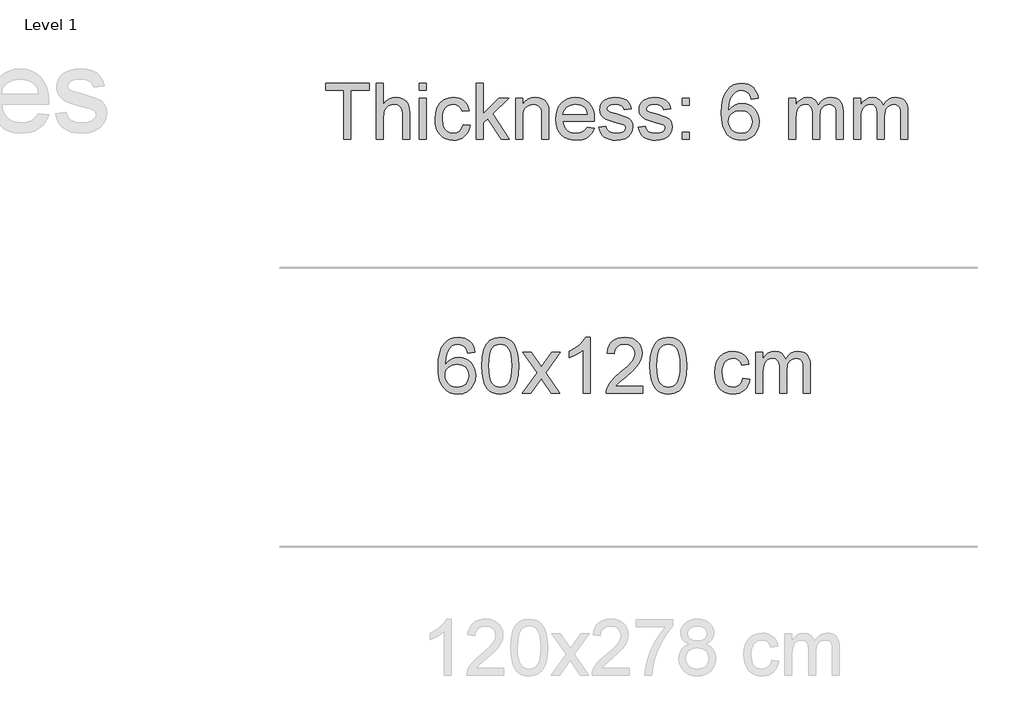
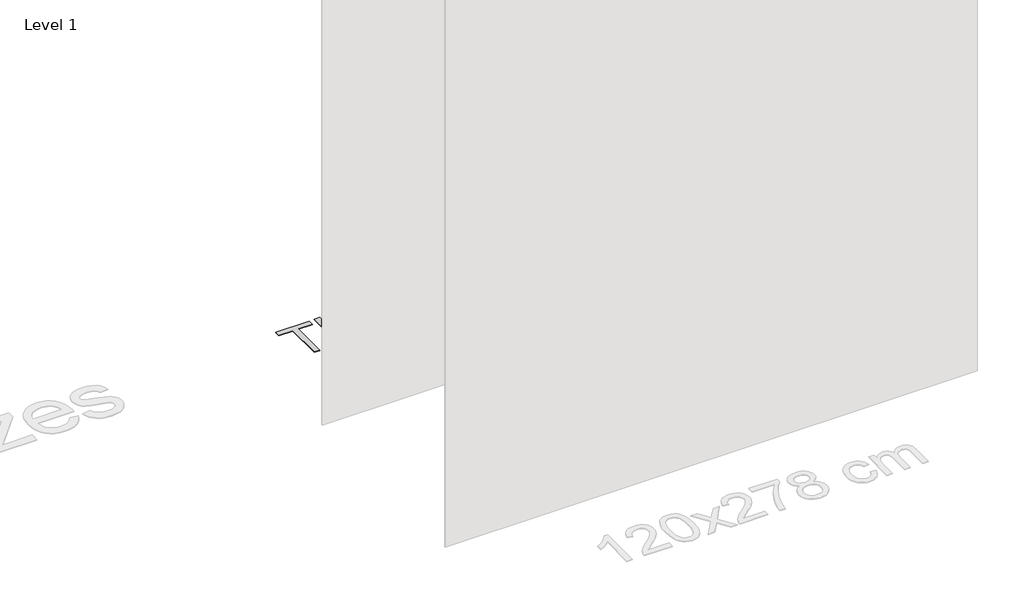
# One storey, part 2 of 7: 2 proxies.
"""IFC4 building model written with IfcOpenShell, lengths in millimetres."""

from ifc_helpers import new_model, si_unit, origin, origin_with_axes, place, context, project, spatial, polyline, outline, extrude, element, save

model = new_model("IFC4")

# Units and contexts
model_context = context("Model", 3, world=origin())
ifc_project = project(units=[si_unit("LENGTHUNIT", "METRE", prefix="MILLI")], contexts=[model_context])

# Site, building, storey
site = spatial("IfcSite", under=ifc_project)
building = spatial("IfcBuilding", under=site)
storey = spatial("IfcBuildingStorey", under=building, Name="Level 1", Elevation=0.0)

# Proxies
placement = place(None, origin())
element("IfcBuildingElementProxy", 1, Name="400mm Arial", ObjectType="400mm Arial", at=placement, inside=storey, context=model_context, shape_type="SweptSolid", body=[
    extrude(outline(polyline([(-22046.8810506, 10100.1981534), (-22097.1092056, 10093.919634), (-22105.2026095, 10118.8129823), (-22116.1409675, 10135.8091305), (-22138.9251257, 10151.4809035), (-22166.4672245, 10156.7048278), (-22189.8154684, 10153.66367), (-22211.7902863, 10144.5401965), (-22230.6626326, 10125.3244936), (-22246.0768882, 10098.8737782), (-22256.4879487, 10061.4601793), (-22260.3507096, 10009.355826), (-22240.203039, 10032.8634855), (-22216.0577174, 10049.430438), (-22189.2636454, 10059.2528873), (-22161.1697237, 10062.5270371), (-22137.0366648, 10060.2890883), (-22114.7675414, 10053.5752418), (-22094.3623534, 10042.3854978), (-22075.8211008, 10026.7198562), (-22060.4129766, 10007.5102847), (-22049.4071736, 9985.688751), (-22042.8036918, 9961.2552552), (-22040.6025312, 9934.2097971), (-22044.747335, 9898.2432008), (-22057.1817464, 9864.9008293), (-22076.8756959, 9836.6229666), (-22102.7991138, 9815.8498966), (-22133.7747778, 9803.0843913), (-22168.6254655, 9798.8292229), (-22198.5679942, 9801.6496516), (-22225.6103865, 9810.1109374), (-22249.7526425, 9824.2130806), (-22270.994762, 9843.956081), (-22288.3128069, 9870.1738045), (-22300.682839, 9903.700117), (-22308.1048583, 9944.5350185), (-22310.5788647, 9992.6785089), (-22307.8320125, 10046.652929), (-22299.5914558, 10092.7178861), (-22285.8571946, 10130.8733804), (-22266.629229, 10161.1194118), (-22245.788714, 10181.1628491), (-22221.6249983, 10195.4795901), (-22194.1380819, 10204.0696347), (-22163.3279648, 10206.9329829), (-22140.1943186, 10205.161018), (-22119.2557017, 10199.8451231), (-22100.5121141, 10190.9852984), (-22083.9635557, 10178.5815438), (-22070.0576162, 10163.0507922), (-22059.2418856, 10144.8099767), (-22051.5163637, 10123.859097), (-22046.8810506, 10100.1981534)]), holes=[polyline([(-22260.3507096, 9934.9946121), (-22257.4444419, 9912.7377514), (-22248.7256386, 9891.4864348), (-22235.1875812, 9873.2149623), (-22217.823551, 9859.8976341), (-22196.86654, 9851.767442), (-22172.5495401, 9849.057378), (-22139.4033723, 9854.6737098), (-22125.4882359, 9861.6941245), (-22113.3450643, 9871.5227052), (-22103.4950239, 9883.7609129), (-22096.4592808, 9898.0102088), (-22090.8306862, 9932.5420654), (-22096.3857044, 9965.6882332), (-22103.329477, 9979.3090641), (-22113.0507588, 9990.9617263), (-22125.2307185, 10000.2967319), (-22139.5505251, 10006.9645931), (-22174.6096793, 10012.298882), (-22207.7067961, 10006.9645931), (-22235.3837849, 9990.9617263), (-22246.3068145, 9979.4623482), (-22254.1089784, 9966.3013699), (-22258.7902768, 9951.4787911), (-22260.3507096, 9934.9946121)])]), origin_with_axes(), (0.0, 0.0, 1.0), 5.0),
    extrude(outline(polyline([(-21996.6528955, 10002.783001), (-21992.9618128, 10067.1010365), (-21981.8885647, 10118.3960494), (-21963.5435159, 10157.4528546), (-21951.6854529, 10172.6862348), (-21938.0370309, 10185.0562669), (-21922.5522646, 10194.6273302), (-21905.1851687, 10201.4638039), (-21864.8039884, 10206.9329829), (-21833.8528499, 10203.6956213), (-21806.1390729, 10193.9835367), (-21782.9625072, 10178.1768736), (-21765.6230025, 10156.6557769), (-21752.5264035, 10129.6041875), (-21742.0785548, 10097.2060465), (-21735.2359497, 10056.0645767), (-21732.9550813, 10002.783001), (-21736.6093758, 9938.8328476), (-21747.5722593, 9887.660462), (-21765.8069435, 9848.5668687), (-21777.6374153, 9833.2875031), (-21791.2766403, 9820.8530917), (-21806.7798007, 9811.2176491), (-21824.2020789, 9804.3351901), (-21864.8039884, 9798.8292229), (-21892.4687144, 9801.2204559), (-21916.9941808, 9808.3941548), (-21938.3803874, 9820.3503196), (-21956.6273344, 9837.0889504), (-21974.1385174, 9867.3472445), (-21986.6465052, 9905.0490177), (-21994.1512979, 9950.1942698), (-21996.6528955, 10002.783001)]), holes=[polyline([(-21946.4247404, 10002.8811029), (-21944.9532124, 9959.2165758), (-21940.5386285, 9923.8723131), (-21933.1809886, 9896.8483149), (-21922.8802927, 9878.1445811), (-21910.4213558, 9865.4189297), (-21896.5889928, 9856.3291788), (-21881.3832037, 9850.8753282), (-21864.8039884, 9849.057378), (-21848.2247732, 9850.8814596), (-21833.018984, 9856.3537042), (-21819.186621, 9865.474112), (-21806.7276841, 9878.2426829), (-21796.4269882, 9896.9770736), (-21789.0693483, 9923.9949404), (-21784.6547644, 9959.2962835), (-21783.1832364, 10002.8811029), (-21784.6057135, 10045.3898675), (-21788.8731446, 10080.1117964), (-21795.9855298, 10107.0468898), (-21805.9428692, 10126.1951477), (-21818.1933396, 10139.5431328), (-21832.1851182, 10149.0774078), (-21847.9182048, 10154.7979728), (-21865.3925996, 10156.7048278), (-21881.8859757, 10155.0248334), (-21896.8342475, 10149.9848501), (-21910.2374148, 10141.5848778), (-21922.0954778, 10129.8249167), (-21932.7395302, 10108.9782703), (-21940.3424247, 10080.8720859), (-21944.9041615, 10045.5063634), (-21946.4247404, 10002.8811029)])]), origin_with_axes(), (0.0, 0.0, 1.0), 5.0),
    extrude(outline(polyline([(-21707.8410038, 9805.1077423), (-21600.5175631, 9953.5358646), (-21701.5624844, 10100.1981534), (-21641.3279391, 10100.1981534), (-21592.571312, 10029.4667084), (-21569.7135773, 9996.2101761), (-21549.8970005, 10023.4824946), (-21494.3713447, 10100.1981534), (-21433.9405957, 10100.1981534), (-21540.086814, 9953.4377628), (-21437.8646703, 9805.1077423), (-21498.1973175, 9805.1077423), (-21559.8052889, 9894.3804398), (-21570.9889016, 9910.7634513), (-21647.4102547, 9805.1077423), (-21707.8410038, 9805.1077423)])), origin_with_axes(), (0.0, 0.0, 1.0), 5.0),
    extrude(outline(polyline([(-21218.1164918, 9805.1077423), (-21268.3446469, 9805.1077423), (-21268.3446469, 10118.2488966), (-21289.3139206, 10101.2895366), (-21315.9240516, 10084.3547021), (-21368.800957, 10058.9953699), (-21368.800957, 10106.4766728), (-21329.3517444, 10127.9364558), (-21295.1755071, 10153.4674663), (-21268.2342823, 10180.6171575), (-21250.4901074, 10206.9329829), (-21218.1164918, 10206.9329829), (-21218.1164918, 9805.1077423)])), origin_with_axes(), (0.0, 0.0, 1.0), 5.0),
    extrude(outline(polyline([(-20841.4053288, 9855.3358974), (-20841.4053288, 9805.1077423), (-21105.1031429, 9805.1077423), (-21103.9994969, 9822.7906035), (-21099.7075403, 9839.7377008), (-21087.3099171, 9866.8015529), (-21069.1488092, 9893.0560646), (-21042.8942975, 9920.5368497), (-21006.2164626, 9951.2795217), (-20952.0274447, 9999.4230122), (-20919.5434645, 10034.9604129), (-20903.3198685, 10063.8023613), (-20897.9120032, 10091.8594948), (-20903.0255629, 10117.0103605), (-20918.3662421, 10137.9183206), (-20941.947478, 10152.008201), (-20971.7827078, 10156.7048278), (-21003.1139911, 10152.1185656), (-21027.4555165, 10138.359779), (-21043.1640776, 10116.5075885), (-21048.5964684, 10087.6411146), (-21098.8246235, 10093.919634), (-21094.5050758, 10119.8491833), (-21086.6477295, 10142.5045828), (-21075.2525847, 10161.8858326), (-21060.3196414, 10177.9929326), (-21042.192256, 10190.6542046), (-21021.2137853, 10199.6979703), (-20997.384229, 10205.1242298), (-20970.7035873, 10206.9329829), (-20943.7838223, 10204.9218947), (-20919.8255074, 10198.8886299), (-20898.8286425, 10188.8331887), (-20880.7932277, 10174.7555711), (-20866.3078741, 10157.6981092), (-20855.961193, 10138.7031355), (-20849.7531844, 10117.77065), (-20847.6838481, 10094.9006526), (-20849.9156656, 10070.8779584), (-20856.6111179, 10047.272197), (-20868.4937063, 10023.2617654), (-20886.2869322, 9998.0250606), (-20914.650634, 9967.8955252), (-20958.2446504, 9929.206602), (-21016.0266491, 9880.8914333), (-21038.68818, 9855.3358974), (-20841.4053288, 9855.3358974)])), origin_with_axes(), (0.0, 0.0, 1.0), 5.0),
    extrude(outline(polyline([(-20791.1771737, 10002.783001), (-20787.486091, 10067.1010365), (-20776.4128429, 10118.3960494), (-20758.0677941, 10157.4528546), (-20746.2097311, 10172.6862348), (-20732.5613091, 10185.0562669), (-20717.0765428, 10194.6273302), (-20699.7094469, 10201.4638039), (-20659.3282666, 10206.9329829), (-20628.3771281, 10203.6956213), (-20600.6633511, 10193.9835367), (-20577.4867854, 10178.1768736), (-20560.1472807, 10156.6557769), (-20547.0506817, 10129.6041875), (-20536.602833, 10097.2060465), (-20529.7602279, 10056.0645767), (-20527.4793595, 10002.783001), (-20531.133654, 9938.8328476), (-20542.0965375, 9887.660462), (-20560.3312217, 9848.5668687), (-20572.1616935, 9833.2875031), (-20585.8009185, 9820.8530917), (-20601.3040789, 9811.2176491), (-20618.7263571, 9804.3351901), (-20659.3282666, 9798.8292229), (-20686.9929926, 9801.2204559), (-20711.518459, 9808.3941548), (-20732.9046656, 9820.3503196), (-20751.1516126, 9837.0889504), (-20768.6627956, 9867.3472445), (-20781.1707834, 9905.0490177), (-20788.6755761, 9950.1942698), (-20791.1771737, 10002.783001)]), holes=[polyline([(-20740.9490186, 10002.8811029), (-20739.4774906, 9959.2165758), (-20735.0629067, 9923.8723131), (-20727.7052668, 9896.8483149), (-20717.4045709, 9878.1445811), (-20704.945634, 9865.4189297), (-20691.113271, 9856.3291788), (-20675.9074819, 9850.8753282), (-20659.3282666, 9849.057378), (-20642.7490514, 9850.8814596), (-20627.5432622, 9856.3537042), (-20613.7108992, 9865.474112), (-20601.2519623, 9878.2426829), (-20590.9512664, 9896.9770736), (-20583.5936265, 9923.9949404), (-20579.1790426, 9959.2962835), (-20577.7075146, 10002.8811029), (-20579.1299917, 10045.3898675), (-20583.3974228, 10080.1117964), (-20590.509808, 10107.0468898), (-20600.4671474, 10126.1951477), (-20612.7176178, 10139.5431328), (-20626.7093964, 10149.0774078), (-20642.442483, 10154.7979728), (-20659.9168778, 10156.7048278), (-20676.4102539, 10155.0248334), (-20691.3585257, 10149.9848501), (-20704.761693, 10141.5848778), (-20716.619756, 10129.8249167), (-20727.2638084, 10108.9782703), (-20734.866703, 10080.8720859), (-20739.4284397, 10045.5063634), (-20740.9490186, 10002.8811029)])]), origin_with_axes(), (0.0, 0.0, 1.0), 5.0),
    extrude(outline(polyline([(-20125.6541189, 9911.8425718), (-20075.4259639, 9905.5640525), (-20080.8890115, 9881.8632549), (-20089.4300051, 9860.8909155), (-20101.0489448, 9842.6470342), (-20115.7458305, 9827.1316111), (-20132.9013942, 9814.7493163), (-20151.8963679, 9805.90482), (-20172.7307516, 9800.5981222), (-20195.4045452, 9798.8292229), (-20223.575109, 9801.297098), (-20248.8332737, 9808.7007231), (-20271.1790392, 9821.0400984), (-20290.6124056, 9838.3152237), (-20306.3424266, 9860.2011368), (-20317.5781558, 9886.372875), (-20324.3195934, 9916.8304386), (-20326.5667392, 9951.5738273), (-20322.7285038, 9996.2714897), (-20311.2137973, 10035.0094638), (-20291.8386789, 10066.2916961), (-20264.4192075, 10088.6221333), (-20231.6163963, 10102.0130379), (-20196.0912583, 10106.4766728), (-20173.8068064, 10104.9438311), (-20153.6499388, 10100.3453062), (-20135.6206553, 10092.6810979), (-20119.7189561, 10081.9512064), (-20106.2146212, 10068.4008863), (-20095.3774307, 10052.2753921), (-20087.2073848, 10033.574724), (-20081.7044833, 10012.298882), (-20131.9326383, 10006.0203626), (-20141.0438491, 10027.9338668), (-20155.2318314, 10043.642428), (-20173.7117702, 10053.0969953), (-20195.6988508, 10056.2485177), (-20212.7655097, 10054.6972819), (-20228.1583055, 10050.0435747), (-20241.8772383, 10042.287396), (-20253.9223079, 10031.4287457), (-20263.7294288, 10017.216238), (-20270.7345151, 9999.3984867), (-20274.9375669, 9977.9754918), (-20276.3385842, 9952.9472534), (-20270.8571424, 9905.8706208), (-20264.0053403, 9887.9333078), (-20254.4128173, 9873.7299971), (-20242.6068709, 9862.9357263), (-20229.1147987, 9855.2255328), (-20213.9366007, 9850.5994167), (-20197.0722769, 9849.057378), (-20171.0630199, 9852.9078762), (-20149.7381269, 9864.4593709), (-20134.2257694, 9884.0061675), (-20125.6541189, 9911.8425718)])), origin_with_axes(), (0.0, 0.0, 1.0), 5.0),
    extrude(outline(polyline([(-20031.4763282, 9805.1077423), (-20031.4763282, 10100.1981534), (-19981.2481731, 10100.1981534), (-19981.2481731, 10051.63773), (-19966.1404858, 10073.9436416), (-19946.7163165, 10091.4180364), (-19923.6378527, 10102.7120137), (-19897.5672819, 10106.4766728), (-19869.6327758, 10102.6384373), (-19847.241025, 10091.1237308), (-19830.5146569, 10072.6928429), (-19819.576299, 10048.1060629), (-19801.2680383, 10073.6432047), (-19780.3846037, 10091.8840203), (-19756.9259952, 10102.8285096), (-19730.8922127, 10106.4766728), (-19710.7843959, 10104.9591595), (-19693.1352572, 10100.4066198), (-19677.9447965, 10092.8190537), (-19665.2130138, 10082.1964611), (-19655.1483755, 10068.4162147), (-19647.9593482, 10051.3556871), (-19643.6459318, 10031.0148785), (-19642.2081263, 10007.3937887), (-19642.2081263, 9805.1077423), (-19692.4362814, 9805.1077423), (-19692.4362814, 9985.8113783), (-19693.6012411, 10010.8641422), (-19697.09612, 10027.7499258), (-19703.6444195, 10039.3136832), (-19713.9696409, 10048.4003684), (-19727.2501809, 10054.2864804), (-19742.6644365, 10056.2485177), (-19769.8754414, 10051.2207971), (-19792.0587257, 10036.1376353), (-19800.6640987, 10024.5677465), (-19806.8107937, 10009.9689627), (-19811.7281497, 9971.6847097), (-19811.7281497, 9805.1077423), (-19861.9563048, 9805.1077423), (-19861.9563048, 9991.4031847), (-19864.8625726, 10019.8036747), (-19873.5813758, 10040.0617099), (-19888.922055, 10052.2018157), (-19911.6939505, 10056.2485177), (-19931.0445435, 10053.5507164), (-19948.8745575, 10045.4573125), (-19963.5898373, 10032.1645097), (-19973.5962276, 10013.8685118), (-19979.3351867, 9988.4846542), (-19981.2481731, 9953.9282721), (-19981.2481731, 9805.1077423), (-20031.4763282, 9805.1077423)])), origin_with_axes(), (0.0, 0.0, 1.0), 5.0),
])
element("IfcBuildingElementProxy", 2, Name="400mm Arial", ObjectType="400mm Arial", at=placement, inside=storey, context=model_context, shape_type="SweptSolid", body=[
    extrude(outline(polyline([(-22985.008477, 11625.1077423), (-22985.008477, 11976.7048278), (-23116.8573841, 11976.7048278), (-23116.8573841, 12026.9329829), (-22802.9314149, 12026.9329829), (-22802.9314149, 11976.7048278), (-22934.7803219, 11976.7048278), (-22934.7803219, 11625.1077423), (-22985.008477, 11625.1077423)])), origin_with_axes(), (0.0, 0.0, 1.0), 5.0),
    extrude(outline(polyline([(-22752.7032598, 11625.1077423), (-22752.7032598, 12026.9329829), (-22702.4751047, 12026.9329829), (-22702.4751047, 11879.1915736), (-22684.0258227, 11899.8788045), (-22663.307935, 11914.655398), (-22640.3214416, 11923.5213541), (-22615.0663427, 11926.4766728), (-22584.7283408, 11923.2515739), (-22558.6577701, 11913.5762775), (-22538.1299547, 11898.2110728), (-22524.420219, 11877.9162494), (-22516.6946971, 11850.0307942), (-22514.1195232, 11811.893694), (-22514.1195232, 11625.1077423), (-22564.3476783, 11625.1077423), (-22564.3476783, 11806.6942951), (-22568.3453293, 11838.135943), (-22580.3382823, 11859.6693024), (-22599.6643498, 11872.1037139), (-22625.6613441, 11876.2485177), (-22646.8881352, 11873.4526145), (-22666.8150766, 11865.064905), (-22683.3207155, 11851.8947296), (-22694.283599, 11834.7514286), (-22700.4272283, 11811.9672704), (-22702.4751047, 11781.8745232), (-22702.4751047, 11625.1077423), (-22752.7032598, 11625.1077423)])), origin_with_axes(), (0.0, 0.0, 1.0), 5.0),
    extrude(outline(polyline([(-22445.05581, 11625.1077423), (-22445.05581, 11920.1981534), (-22394.8276549, 11920.1981534), (-22394.8276549, 11625.1077423), (-22445.05581, 11625.1077423)])), origin_with_axes(), (0.0, 0.0, 1.0), 5.0),
    extrude(outline(polyline([(-22445.05581, 11976.7048278), (-22445.05581, 12026.9329829), (-22394.8276549, 12026.9329829), (-22394.8276549, 11976.7048278), (-22445.05581, 11976.7048278)])), origin_with_axes(), (0.0, 0.0, 1.0), 5.0),
    extrude(outline(polyline([(-22131.1298407, 11731.8425718), (-22080.9016857, 11725.5640525), (-22086.3647333, 11701.8632549), (-22094.9057269, 11680.8909155), (-22106.5246666, 11662.6470342), (-22121.2215523, 11647.1316111), (-22138.377116, 11634.7493163), (-22157.3720897, 11625.90482), (-22178.2064734, 11620.5981222), (-22200.880267, 11618.8292229), (-22229.0508308, 11621.297098), (-22254.3089955, 11628.7007231), (-22276.654761, 11641.0400984), (-22296.0881274, 11658.3152237), (-22311.8181484, 11680.2011368), (-22323.0538776, 11706.372875), (-22329.7953152, 11736.8304386), (-22332.042461, 11771.5738273), (-22328.2042256, 11816.2714897), (-22316.6895191, 11855.0094638), (-22297.3144007, 11886.2916961), (-22269.8949293, 11908.6221333), (-22237.0921181, 11922.0130379), (-22201.5669801, 11926.4766728), (-22179.2825282, 11924.9438311), (-22159.1256606, 11920.3453062), (-22141.0963771, 11912.6810979), (-22125.1946779, 11901.9512064), (-22111.690343, 11888.4008863), (-22100.8531525, 11872.2753921), (-22092.6831066, 11853.574724), (-22087.180205, 11832.298882), (-22137.4083601, 11826.0203626), (-22146.5195709, 11847.9338668), (-22160.7075531, 11863.642428), (-22179.187492, 11873.0969953), (-22201.1745726, 11876.2485177), (-22218.2412315, 11874.6972819), (-22233.6340273, 11870.0435747), (-22247.3529601, 11862.287396), (-22259.3980297, 11851.4287457), (-22269.2051506, 11837.216238), (-22276.2102369, 11819.3984867), (-22280.4132887, 11797.9754918), (-22281.814306, 11772.9472534), (-22276.3328642, 11725.8706208), (-22269.4810621, 11707.9333078), (-22259.888539, 11693.7299971), (-22248.0825927, 11682.9357263), (-22234.5905205, 11675.2255328), (-22219.4123225, 11670.5994167), (-22202.5479987, 11669.057378), (-22176.5387417, 11672.9078762), (-22155.2138487, 11684.4593709), (-22139.7014912, 11704.0061675), (-22131.1298407, 11731.8425718)])), origin_with_axes(), (0.0, 0.0, 1.0), 5.0),
    extrude(outline(polyline([(-22036.95205, 11625.1077423), (-22036.95205, 12026.9329829), (-21986.7238949, 12026.9329829), (-21986.7238949, 11811.0107772), (-21874.1029534, 11920.1981534), (-21804.6468328, 11920.1981534), (-21918.7393022, 11809.6373511), (-21798.3683134, 11625.1077423), (-21857.0332289, 11625.1077423), (-21954.7426868, 11774.713087), (-21986.7238949, 11743.6147957), (-21986.7238949, 11625.1077423), (-22036.95205, 11625.1077423)])), origin_with_axes(), (0.0, 0.0, 1.0), 5.0),
    extrude(outline(polyline([(-21754.4186777, 11625.1077423), (-21754.4186777, 11920.1981534), (-21704.1905226, 11920.1981534), (-21704.1905226, 11878.9953699), (-21686.7406533, 11899.7684399), (-21665.7836423, 11914.606347), (-21641.3194896, 11923.5090913), (-21613.3481953, 11926.4766728), (-21588.589737, 11924.0854398), (-21565.9159433, 11916.9117409), (-21547.0068088, 11905.8507556), (-21533.5423278, 11891.7976633), (-21524.4065916, 11874.7892524), (-21518.4836914, 11854.862311), (-21515.8349411, 11806.3018877), (-21515.8349411, 11625.1077423), (-21566.0630961, 11625.1077423), (-21566.0630961, 11799.532859), (-21567.5100987, 11825.5053278), (-21571.8511062, 11843.973004), (-21579.858671, 11857.2044931), (-21592.3053451, 11867.4684007), (-21608.259161, 11874.0534884), (-21626.7881508, 11876.2485177), (-21656.2064477, 11871.3188989), (-21681.283737, 11856.5300427), (-21691.3054557, 11844.4573819), (-21698.4638262, 11827.9578744), (-21702.7588485, 11807.0315203), (-21704.1905226, 11781.6783195), (-21704.1905226, 11625.1077423), (-21754.4186777, 11625.1077423)])), origin_with_axes(), (0.0, 0.0, 1.0), 5.0),
    extrude(outline(polyline([(-21240.1686994, 11713.0070137), (-21190.9215629, 11706.7284943), (-21198.4723409, 11687.003888), (-21208.6657378, 11669.6214637), (-21221.5017538, 11654.5812215), (-21236.9803887, 11641.8831613), (-21254.9422271, 11631.7970633), (-21275.2278535, 11624.5927075), (-21322.77047, 11618.8292229), (-21353.9362064, 11621.3154921), (-21381.7051656, 11628.7742995), (-21406.0773478, 11641.2056453), (-21427.0527529, 11658.6095293), (-21443.9201424, 11680.5015737), (-21455.9682777, 11706.3974005), (-21463.1971589, 11736.2970097), (-21465.606786, 11770.2004012), (-21463.1726335, 11805.253424), (-21455.8701759, 11836.1493802), (-21443.6994132, 11862.8882699), (-21426.6603454, 11885.470093), (-21405.7401226, 11903.4104717), (-21381.9258948, 11916.2250278), (-21355.217662, 11923.9137615), (-21325.6154241, 11926.4766728), (-21296.9666137, 11923.9198929), (-21271.0585242, 11916.2495533), (-21247.8911556, 11903.465654), (-21227.4645078, 11885.5681949), (-21210.7902564, 11863.0354227), (-21198.8800768, 11836.3455839), (-21191.733969, 11805.4986786), (-21189.3519331, 11770.4947068), (-21189.6462387, 11756.9566494), (-21415.3786309, 11756.9566494), (-21412.4692975, 11736.913212), (-21406.6843531, 11719.3591095), (-21398.0237978, 11704.2943418), (-21386.4876316, 11691.7189089), (-21372.7135165, 11681.8044891), (-21357.3391148, 11674.7227607), (-21321.7894513, 11669.057378), (-21295.056693, 11671.6816029), (-21272.5423149, 11679.5542776), (-21254.246317, 11693.1659114), (-21240.1686994, 11713.0070137)]), holes=[polyline([(-21415.3786309, 11807.1848045), (-21239.5800882, 11807.1848045), (-21246.3736423, 11833.721359), (-21259.6909706, 11852.70407), (-21273.3884435, 11863.0047659), (-21288.9743774, 11870.3624058), (-21306.4487721, 11874.7769897), (-21325.8116278, 11876.2485177), (-21359.6690341, 11871.5518909), (-21387.664854, 11857.4620105), (-21407.1258115, 11835.4994553), (-21415.3786309, 11807.1848045)])]), origin_with_axes(), (0.0, 0.0, 1.0), 5.0),
    extrude(outline(polyline([(-21157.9593362, 11713.0070137), (-21107.7311811, 11719.2855331), (-21099.8094555, 11697.8012246), (-21084.481039, 11682.0068242), (-21061.6478298, 11672.2947396), (-21031.2117261, 11669.057378), (-21001.1435044, 11672.0249594), (-20980.0025524, 11680.9277037), (-20967.4945645, 11693.828099), (-20963.3252352, 11708.7886335), (-20967.51909, 11721.5909269), (-20980.1006542, 11731.3520625), (-21031.8003373, 11745.6749349), (-21107.4368755, 11770.2494521), (-21126.579002, 11782.5980244), (-21140.4481532, 11798.9442478), (-21148.8726509, 11818.2457898), (-21151.6808168, 11839.4603182), (-21149.4244739, 11858.9212757), (-21142.6554452, 11876.8861798), (-21131.9868673, 11892.6437919), (-21118.031877, 11905.4828736), (-21086.0997198, 11920.3453062), (-21065.2162852, 11924.9438311), (-21042.8858481, 11926.4766728), (-21010.1934014, 11924.0118634), (-20981.7683859, 11916.6174353), (-20958.9106513, 11905.0168897), (-20942.9200472, 11889.9337279), (-20932.3250458, 11870.2520412), (-20925.6541189, 11844.8559208), (-20975.882274, 11838.5774014), (-20982.2221071, 11854.3840644), (-20994.7668831, 11866.2911783), (-21013.6392295, 11873.7591828), (-21038.9617735, 11876.2485177), (-21067.8037219, 11873.8695474), (-21087.0316875, 11866.7326367), (-21097.8474182, 11856.4319409), (-21101.4526617, 11844.5616152), (-21095.4684479, 11829.9444372), (-21076.7309916, 11818.8589264), (-21033.468069, 11808.1658231), (-20959.7445172, 11784.5232735), (-20940.2712969, 11773.2170336), (-20925.5069661, 11757.7414643), (-20916.1995517, 11738.0475148), (-20913.0970802, 11714.0861342), (-20916.7391119, 11689.3154132), (-20927.6652072, 11666.0162202), (-20945.458433, 11646.0157024), (-20969.7018565, 11631.141007), (-20998.9852633, 11621.9071689), (-21031.8984391, 11618.8292229), (-21058.9316344, 11620.3130136), (-21082.5435272, 11624.7643858), (-21102.7341173, 11632.1833393), (-21119.5034049, 11642.5698743), (-21133.2008779, 11655.8749398), (-21144.1760241, 11672.0494849), (-21152.4288435, 11691.0935095), (-21157.9593362, 11713.0070137)])), origin_with_axes(), (0.0, 0.0, 1.0), 5.0),
    extrude(outline(polyline([(-20875.4259639, 11713.0070137), (-20825.1978088, 11719.2855331), (-20817.2760832, 11697.8012246), (-20801.9476667, 11682.0068242), (-20779.1144575, 11672.2947396), (-20748.6783538, 11669.057378), (-20718.6101321, 11672.0249594), (-20697.4691801, 11680.9277037), (-20684.9611922, 11693.828099), (-20680.791863, 11708.7886335), (-20684.9857177, 11721.5909269), (-20697.5672819, 11731.3520625), (-20749.266965, 11745.6749349), (-20824.9035032, 11770.2494521), (-20844.0456297, 11782.5980244), (-20857.9147809, 11798.9442478), (-20866.3392786, 11818.2457898), (-20869.1474445, 11839.4603182), (-20866.8911016, 11858.9212757), (-20860.1220729, 11876.8861798), (-20849.453495, 11892.6437919), (-20835.4985047, 11905.4828736), (-20803.5663475, 11920.3453062), (-20782.6829129, 11924.9438311), (-20760.3524758, 11926.4766728), (-20727.6600291, 11924.0118634), (-20699.2350136, 11916.6174353), (-20676.377279, 11905.0168897), (-20660.386675, 11889.9337279), (-20649.7916735, 11870.2520412), (-20643.1207466, 11844.8559208), (-20693.3489017, 11838.5774014), (-20699.6887348, 11854.3840644), (-20712.2335108, 11866.2911783), (-20731.1058572, 11873.7591828), (-20756.4284012, 11876.2485177), (-20785.2703496, 11873.8695474), (-20804.4983152, 11866.7326367), (-20815.3140459, 11856.4319409), (-20818.9192894, 11844.5616152), (-20812.9350756, 11829.9444372), (-20794.1976193, 11818.8589264), (-20750.9346967, 11808.1658231), (-20677.2111449, 11784.5232735), (-20657.7379246, 11773.2170336), (-20642.9735938, 11757.7414643), (-20633.6661794, 11738.0475148), (-20630.5637079, 11714.0861342), (-20634.2057396, 11689.3154132), (-20645.1318349, 11666.0162202), (-20662.9250607, 11646.0157024), (-20687.1684842, 11631.141007), (-20716.451891, 11621.9071689), (-20749.3650669, 11618.8292229), (-20776.3982621, 11620.3130136), (-20800.0101549, 11624.7643858), (-20820.200745, 11632.1833393), (-20836.9700326, 11642.5698743), (-20850.6675056, 11655.8749398), (-20861.6426518, 11672.0494849), (-20869.8954712, 11691.0935095), (-20875.4259639, 11713.0070137)])), origin_with_axes(), (0.0, 0.0, 1.0), 5.0),
    extrude(outline(polyline([(-20561.4999946, 11869.9699983), (-20561.4999946, 11920.1981534), (-20511.2718396, 11920.1981534), (-20511.2718396, 11869.9699983), (-20561.4999946, 11869.9699983)])), origin_with_axes(), (0.0, 0.0, 1.0), 5.0),
    extrude(outline(polyline([(-20561.4999946, 11625.1077423), (-20561.4999946, 11675.3358974), (-20511.2718396, 11675.3358974), (-20511.2718396, 11625.1077423), (-20561.4999946, 11625.1077423)])), origin_with_axes(), (0.0, 0.0, 1.0), 5.0),
    extrude(outline(polyline([(-20015.2688082, 11920.1981534), (-20065.4969633, 11913.919634), (-20073.5903672, 11938.8129823), (-20084.5287252, 11955.8091305), (-20107.3128834, 11971.4809035), (-20134.8549821, 11976.7048278), (-20158.2032261, 11973.66367), (-20180.1780439, 11964.5401965), (-20199.0503903, 11945.3244936), (-20214.4646459, 11918.8737782), (-20224.8757063, 11881.4601793), (-20228.7384673, 11829.355826), (-20208.5907967, 11852.8634855), (-20184.4454751, 11869.430438), (-20157.6514031, 11879.2528873), (-20129.5574814, 11882.5270371), (-20105.4244225, 11880.2890883), (-20083.1552991, 11873.5752418), (-20062.7501111, 11862.3854978), (-20044.2088585, 11846.7198562), (-20028.8007343, 11827.5102847), (-20017.7949312, 11805.688751), (-20011.1914494, 11781.2552552), (-20008.9902888, 11754.2097971), (-20013.1350926, 11718.2432008), (-20025.5695041, 11684.9008293), (-20045.2634536, 11656.6229666), (-20071.1868715, 11635.8498966), (-20102.1625355, 11623.0843913), (-20137.0132231, 11618.8292229), (-20166.9557519, 11621.6496516), (-20193.9981442, 11630.1109374), (-20218.1404001, 11644.2130806), (-20239.3825197, 11663.956081), (-20256.7005646, 11690.1738045), (-20269.0705967, 11723.700117), (-20276.4926159, 11764.5350185), (-20278.9666224, 11812.6785089), (-20276.2197701, 11866.652929), (-20267.9792134, 11912.7178861), (-20254.2449523, 11950.8733804), (-20235.0169867, 11981.1194118), (-20214.1764716, 12001.1628491), (-20190.0127559, 12015.4795901), (-20162.5258395, 12024.0696347), (-20131.7157224, 12026.9329829), (-20108.5820763, 12025.161018), (-20087.6434594, 12019.8451231), (-20068.8998717, 12010.9852984), (-20052.3513133, 11998.5815438), (-20038.4453739, 11983.0507922), (-20027.6296432, 11964.8099767), (-20019.9041213, 11943.859097), (-20015.2688082, 11920.1981534)]), holes=[polyline([(-20228.7384673, 11754.9946121), (-20225.8321995, 11732.7377514), (-20217.1133962, 11711.4864348), (-20203.5753388, 11693.2149623), (-20186.2113086, 11679.8976341), (-20165.2542976, 11671.767442), (-20140.9372978, 11669.057378), (-20107.79113, 11674.6737098), (-20093.8759935, 11681.6941245), (-20081.732822, 11691.5227052), (-20071.8827816, 11703.7609129), (-20064.8470384, 11718.0102088), (-20059.2184439, 11752.5420654), (-20064.773462, 11785.6882332), (-20071.7172347, 11799.3090641), (-20081.4385164, 11810.9617263), (-20093.6184761, 11820.2967319), (-20107.9382828, 11826.9645931), (-20142.9974369, 11832.298882), (-20176.0945538, 11826.9645931), (-20203.7715425, 11810.9617263), (-20214.6945721, 11799.4623482), (-20222.4967361, 11786.3013699), (-20227.1780345, 11771.4787911), (-20228.7384673, 11754.9946121)])]), origin_with_axes(), (0.0, 0.0, 1.0), 5.0),
    extrude(outline(polyline([(-19795.5206298, 11625.1077423), (-19795.5206298, 11920.1981534), (-19745.2924747, 11920.1981534), (-19745.2924747, 11871.63773), (-19730.1847874, 11893.9436416), (-19710.7606181, 11911.4180364), (-19687.6821542, 11922.7120137), (-19661.6115835, 11926.4766728), (-19633.6770773, 11922.6384373), (-19611.2853266, 11911.1237308), (-19594.5589585, 11892.6928429), (-19583.6206005, 11868.1060629), (-19565.3123399, 11893.6432047), (-19544.4289053, 11911.8840203), (-19520.9702968, 11922.8285096), (-19494.9365142, 11926.4766728), (-19474.8286975, 11924.9591595), (-19457.1795588, 11920.4066198), (-19441.9890981, 11912.8190537), (-19429.2573154, 11902.1964611), (-19419.1926771, 11888.4162147), (-19412.0036498, 11871.3556871), (-19407.6902334, 11851.0148785), (-19406.2524279, 11827.3937887), (-19406.2524279, 11625.1077423), (-19456.480583, 11625.1077423), (-19456.480583, 11805.8113783), (-19457.6455427, 11830.8641422), (-19461.1404216, 11847.7499258), (-19467.6887211, 11859.3136832), (-19478.0139425, 11868.4003684), (-19491.2944825, 11874.2864804), (-19506.7087381, 11876.2485177), (-19533.919743, 11871.2207971), (-19556.1030273, 11856.1376353), (-19564.7084003, 11844.5677465), (-19570.8550953, 11829.9689627), (-19575.7724513, 11791.6847097), (-19575.7724513, 11625.1077423), (-19626.0006064, 11625.1077423), (-19626.0006064, 11811.4031847), (-19628.9068741, 11839.8036747), (-19637.6256774, 11860.0617099), (-19652.9663566, 11872.2018157), (-19675.7382521, 11876.2485177), (-19695.0888451, 11873.5507164), (-19712.9188591, 11865.4573125), (-19727.6341389, 11852.1645097), (-19737.6405292, 11833.8685118), (-19743.3794883, 11808.4846542), (-19745.2924747, 11773.9282721), (-19745.2924747, 11625.1077423), (-19795.5206298, 11625.1077423)])), origin_with_axes(), (0.0, 0.0, 1.0), 5.0),
    extrude(outline(polyline([(-19330.9101953, 11625.1077423), (-19330.9101953, 11920.1981534), (-19280.6820402, 11920.1981534), (-19280.6820402, 11871.63773), (-19265.574353, 11893.9436416), (-19246.1501836, 11911.4180364), (-19223.0717198, 11922.7120137), (-19197.0011491, 11926.4766728), (-19169.0666429, 11922.6384373), (-19146.6748921, 11911.1237308), (-19129.9485241, 11892.6928429), (-19119.0101661, 11868.1060629), (-19100.7019055, 11893.6432047), (-19079.8184709, 11911.8840203), (-19056.3598623, 11922.8285096), (-19030.3260798, 11926.4766728), (-19010.2182631, 11924.9591595), (-18992.5691244, 11920.4066198), (-18977.3786636, 11912.8190537), (-18964.6468809, 11902.1964611), (-18954.5822427, 11888.4162147), (-18947.3932153, 11871.3556871), (-18943.079799, 11851.0148785), (-18941.6419935, 11827.3937887), (-18941.6419935, 11625.1077423), (-18991.8701486, 11625.1077423), (-18991.8701486, 11805.8113783), (-18993.0351082, 11830.8641422), (-18996.5299872, 11847.7499258), (-19003.0782867, 11859.3136832), (-19013.403508, 11868.4003684), (-19026.684048, 11874.2864804), (-19042.0983036, 11876.2485177), (-19069.3093085, 11871.2207971), (-19091.4925929, 11856.1376353), (-19100.0979659, 11844.5677465), (-19106.2446609, 11829.9689627), (-19111.1620169, 11791.6847097), (-19111.1620169, 11625.1077423), (-19161.3901719, 11625.1077423), (-19161.3901719, 11811.4031847), (-19164.2964397, 11839.8036747), (-19173.015243, 11860.0617099), (-19188.3559222, 11872.2018157), (-19211.1278177, 11876.2485177), (-19230.4784106, 11873.5507164), (-19248.3084247, 11865.4573125), (-19263.0237045, 11852.1645097), (-19273.0300947, 11833.8685118), (-19278.7690539, 11808.4846542), (-19280.6820402, 11773.9282721), (-19280.6820402, 11625.1077423), (-19330.9101953, 11625.1077423)])), origin_with_axes(), (0.0, 0.0, 1.0), 5.0),
])

save(model, "model.ifc")
